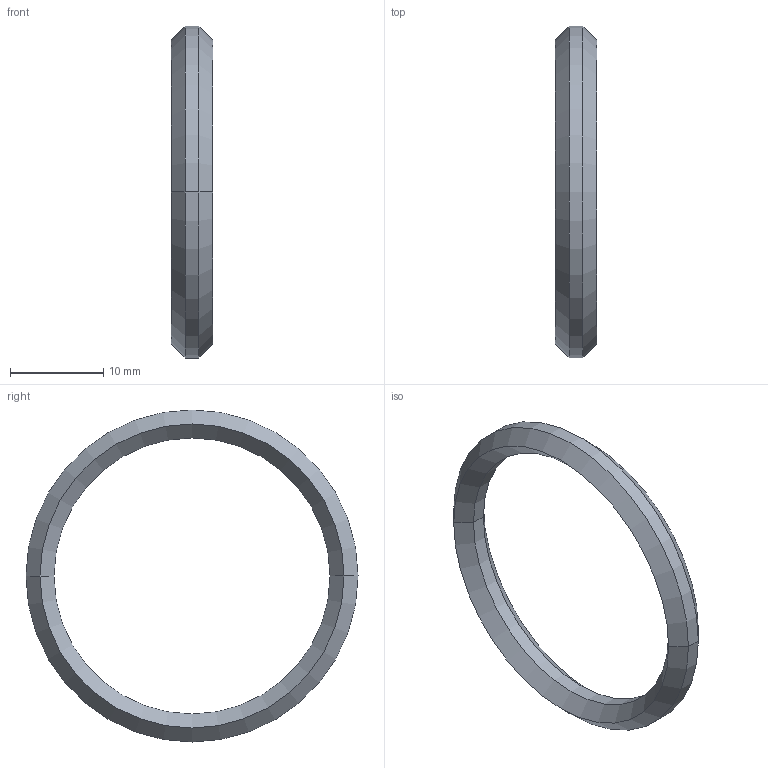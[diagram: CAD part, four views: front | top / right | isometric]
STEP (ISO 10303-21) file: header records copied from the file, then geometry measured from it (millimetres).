
FILE_DESCRIPTION((''),'2;1');
FILE_NAME('W:\211-168.stp','2003-10-08T15:34:25',('KAA'),(''),'Autodesk Inventor (R) 6.0','Autodesk Inventor (R) 6.0','');
FILE_SCHEMA(('CONFIG_CONTROL_DESIGN'));
Length unit declared in the file: millimetre
Products named in the file (1): 211-168
Bounding box: 4.5 x 35.6 x 35.6 mm (x, y, z)
Volume: 921.7 mm3; surface area: 1176.3 mm2
Topology: 1 solids, 1 shells, 12 faces, 24 edges, 12 vertices
Faces by surface type: cone 8, cylinder 4
Entity records: 403 total; most frequent: DIRECTION 62, CARTESIAN_POINT 49, ORIENTED_EDGE 48, AXIS2_PLACEMENT_3D 25, EDGE_CURVE 24, VERTEX_POINT 12, VECTOR 12, LINE 12
